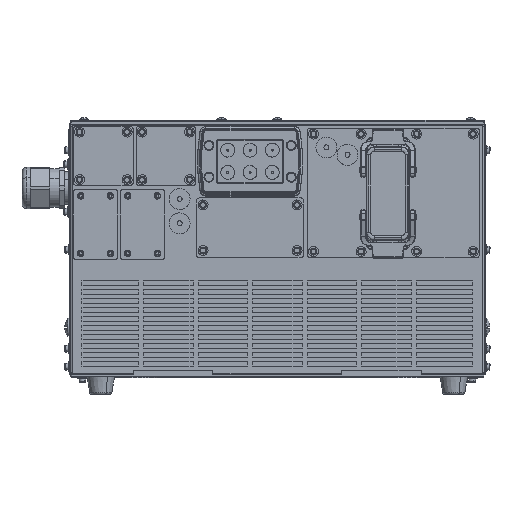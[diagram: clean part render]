
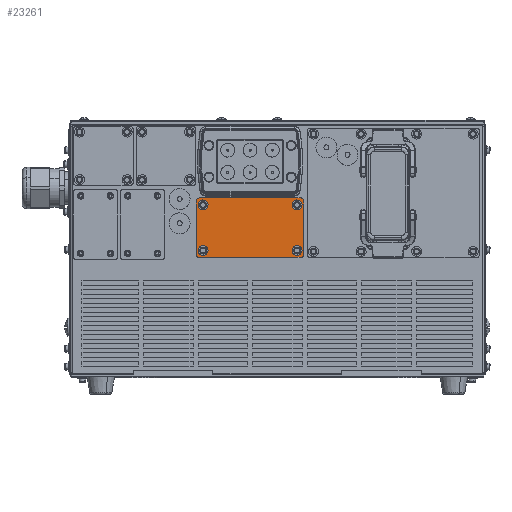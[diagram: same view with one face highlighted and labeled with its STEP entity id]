
A CAD part, left-side view. The second image highlights one B-rep face of the part: STEP entity #23261.
In plain terms, the highlighted planar face has unit normal (-1, 0, 0).
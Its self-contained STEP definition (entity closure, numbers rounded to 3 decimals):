
#11885=CARTESIAN_POINT('Vertex',(-261.,78.9,138.)) ;
#11888=CARTESIAN_POINT('Axis2P3D Location',(-261.,78.9,141.)) ;
#11892=CARTESIAN_POINT('Vertex',(-261.,81.9,141.)) ;
#11916=CARTESIAN_POINT('Vertex',(-261.,81.9,195.)) ;
#11919=CARTESIAN_POINT('Line Origine',(-261.,81.9,168.)) ;
#11936=CARTESIAN_POINT('Axis2P3D Location',(-261.,78.9,195.)) ;
#11940=CARTESIAN_POINT('Vertex',(-261.,78.9,198.)) ;
#11960=CARTESIAN_POINT('Line Origine',(-261.,27.5,198.)) ;
#11964=CARTESIAN_POINT('Vertex',(-261.,-23.9,198.)) ;
#11984=CARTESIAN_POINT('Axis2P3D Location',(-261.,-23.9,195.)) ;
#11988=CARTESIAN_POINT('Vertex',(-261.,-26.9,195.)) ;
#12008=CARTESIAN_POINT('Line Origine',(-261.,-26.9,168.)) ;
#12012=CARTESIAN_POINT('Vertex',(-261.,-26.9,141.)) ;
#12032=CARTESIAN_POINT('Axis2P3D Location',(-261.,-23.9,141.)) ;
#12036=CARTESIAN_POINT('Vertex',(-261.,-23.9,138.)) ;
#12056=CARTESIAN_POINT('Line Origine',(-261.,27.5,138.)) ;
#23174=CARTESIAN_POINT('Axis2P3D Location',(-261.,-26.9,198.)) ;
#23189=CARTESIAN_POINT('Axis2P3D Location',(-261.,74.9,145.)) ;
#23193=CARTESIAN_POINT('Vertex',(-261.,72.503,149.388)) ;
#23195=CARTESIAN_POINT('Vertex',(-261.,77.297,140.612)) ;
#23198=CARTESIAN_POINT('Axis2P3D Location',(-261.,74.9,145.)) ;
#23207=CARTESIAN_POINT('Axis2P3D Location',(-261.,-19.9,145.)) ;
#23211=CARTESIAN_POINT('Vertex',(-261.,-22.297,149.388)) ;
#23213=CARTESIAN_POINT('Vertex',(-261.,-17.503,140.612)) ;
#23216=CARTESIAN_POINT('Axis2P3D Location',(-261.,-19.9,145.)) ;
#23225=CARTESIAN_POINT('Axis2P3D Location',(-261.,74.9,191.)) ;
#23229=CARTESIAN_POINT('Vertex',(-261.,72.503,195.388)) ;
#23231=CARTESIAN_POINT('Vertex',(-261.,77.297,186.612)) ;
#23234=CARTESIAN_POINT('Axis2P3D Location',(-261.,74.9,191.)) ;
#23243=CARTESIAN_POINT('Axis2P3D Location',(-261.,-19.9,191.)) ;
#23247=CARTESIAN_POINT('Vertex',(-261.,-22.297,195.388)) ;
#23249=CARTESIAN_POINT('Vertex',(-261.,-17.503,186.612)) ;
#23252=CARTESIAN_POINT('Axis2P3D Location',(-261.,-19.9,191.)) ;
#11889=DIRECTION('Axis2P3D Direction',(1.,0.,0.)) ;
#11920=DIRECTION('Vector Direction',(0.,0.,-1.)) ;
#11937=DIRECTION('Axis2P3D Direction',(1.,0.,0.)) ;
#11961=DIRECTION('Vector Direction',(0.,-1.,0.)) ;
#11985=DIRECTION('Axis2P3D Direction',(1.,0.,0.)) ;
#12009=DIRECTION('Vector Direction',(0.,0.,1.)) ;
#12033=DIRECTION('Axis2P3D Direction',(1.,0.,0.)) ;
#12057=DIRECTION('Vector Direction',(0.,1.,0.)) ;
#23175=DIRECTION('Axis2P3D Direction',(-1.,0.,0.)) ;
#23176=DIRECTION('Axis2P3D XDirection',(0.,1.,0.)) ;
#23190=DIRECTION('Axis2P3D Direction',(-1.,0.,0.)) ;
#23199=DIRECTION('Axis2P3D Direction',(-1.,0.,0.)) ;
#23208=DIRECTION('Axis2P3D Direction',(-1.,0.,0.)) ;
#23217=DIRECTION('Axis2P3D Direction',(-1.,0.,0.)) ;
#23226=DIRECTION('Axis2P3D Direction',(-1.,0.,0.)) ;
#23235=DIRECTION('Axis2P3D Direction',(-1.,0.,0.)) ;
#23244=DIRECTION('Axis2P3D Direction',(-1.,0.,0.)) ;
#23253=DIRECTION('Axis2P3D Direction',(-1.,0.,0.)) ;
#11890=AXIS2_PLACEMENT_3D('Circle Axis2P3D',#11888,#11889,$) ;
#11938=AXIS2_PLACEMENT_3D('Circle Axis2P3D',#11936,#11937,$) ;
#11986=AXIS2_PLACEMENT_3D('Circle Axis2P3D',#11984,#11985,$) ;
#12034=AXIS2_PLACEMENT_3D('Circle Axis2P3D',#12032,#12033,$) ;
#23177=AXIS2_PLACEMENT_3D('Plane Axis2P3D',#23174,#23175,#23176) ;
#23191=AXIS2_PLACEMENT_3D('Circle Axis2P3D',#23189,#23190,$) ;
#23200=AXIS2_PLACEMENT_3D('Circle Axis2P3D',#23198,#23199,$) ;
#23209=AXIS2_PLACEMENT_3D('Circle Axis2P3D',#23207,#23208,$) ;
#23218=AXIS2_PLACEMENT_3D('Circle Axis2P3D',#23216,#23217,$) ;
#23227=AXIS2_PLACEMENT_3D('Circle Axis2P3D',#23225,#23226,$) ;
#23236=AXIS2_PLACEMENT_3D('Circle Axis2P3D',#23234,#23235,$) ;
#23245=AXIS2_PLACEMENT_3D('Circle Axis2P3D',#23243,#23244,$) ;
#23254=AXIS2_PLACEMENT_3D('Circle Axis2P3D',#23252,#23253,$) ;
#23180=ORIENTED_EDGE('',*,*,#11966,.T.) ;
#23181=ORIENTED_EDGE('',*,*,#11942,.F.) ;
#23182=ORIENTED_EDGE('',*,*,#11923,.T.) ;
#23183=ORIENTED_EDGE('',*,*,#11894,.F.) ;
#23184=ORIENTED_EDGE('',*,*,#12060,.T.) ;
#23185=ORIENTED_EDGE('',*,*,#12038,.F.) ;
#23186=ORIENTED_EDGE('',*,*,#12014,.T.) ;
#23187=ORIENTED_EDGE('',*,*,#11990,.F.) ;
#23204=ORIENTED_EDGE('',*,*,#23197,.T.) ;
#23205=ORIENTED_EDGE('',*,*,#23202,.T.) ;
#23222=ORIENTED_EDGE('',*,*,#23215,.T.) ;
#23223=ORIENTED_EDGE('',*,*,#23220,.T.) ;
#23240=ORIENTED_EDGE('',*,*,#23233,.T.) ;
#23241=ORIENTED_EDGE('',*,*,#23238,.T.) ;
#23258=ORIENTED_EDGE('',*,*,#23251,.T.) ;
#23259=ORIENTED_EDGE('',*,*,#23256,.T.) ;
#23206=FACE_BOUND('',#23203,.T.) ;
#23224=FACE_BOUND('',#23221,.T.) ;
#23242=FACE_BOUND('',#23239,.T.) ;
#23260=FACE_BOUND('',#23257,.T.) ;
#11921=VECTOR('Line Direction',#11920,1.) ;
#11962=VECTOR('Line Direction',#11961,1.) ;
#12010=VECTOR('Line Direction',#12009,1.) ;
#12058=VECTOR('Line Direction',#12057,1.) ;
#23261=ADVANCED_FACE('F01',(#23188,#23206,#23224,#23242,#23260),#23178,.T.) ;
#11891=CIRCLE('generated circle',#11890,3.) ;
#11939=CIRCLE('generated circle',#11938,3.) ;
#11987=CIRCLE('generated circle',#11986,3.) ;
#12035=CIRCLE('generated circle',#12034,3.) ;
#23192=CIRCLE('generated circle',#23191,5.) ;
#23201=CIRCLE('generated circle',#23200,5.) ;
#23210=CIRCLE('generated circle',#23209,5.) ;
#23219=CIRCLE('generated circle',#23218,5.) ;
#23228=CIRCLE('generated circle',#23227,5.) ;
#23237=CIRCLE('generated circle',#23236,5.) ;
#23246=CIRCLE('generated circle',#23245,5.) ;
#23255=CIRCLE('generated circle',#23254,5.) ;
#11894=EDGE_CURVE('',#11886,#11893,#11891,.T.) ;
#11923=EDGE_CURVE('',#11917,#11893,#11922,.T.) ;
#11942=EDGE_CURVE('',#11917,#11941,#11939,.T.) ;
#11966=EDGE_CURVE('',#11965,#11941,#11963,.F.) ;
#11990=EDGE_CURVE('',#11965,#11989,#11987,.T.) ;
#12014=EDGE_CURVE('',#12013,#11989,#12011,.T.) ;
#12038=EDGE_CURVE('',#12013,#12037,#12035,.T.) ;
#12060=EDGE_CURVE('',#11886,#12037,#12059,.F.) ;
#23197=EDGE_CURVE('',#23194,#23196,#23192,.F.) ;
#23202=EDGE_CURVE('',#23196,#23194,#23201,.F.) ;
#23215=EDGE_CURVE('',#23212,#23214,#23210,.F.) ;
#23220=EDGE_CURVE('',#23214,#23212,#23219,.F.) ;
#23233=EDGE_CURVE('',#23230,#23232,#23228,.F.) ;
#23238=EDGE_CURVE('',#23232,#23230,#23237,.F.) ;
#23251=EDGE_CURVE('',#23248,#23250,#23246,.F.) ;
#23256=EDGE_CURVE('',#23250,#23248,#23255,.F.) ;
#23179=EDGE_LOOP('',(#23180,#23181,#23182,#23183,#23184,#23185,#23186,#23187)) ;
#23203=EDGE_LOOP('',(#23204,#23205)) ;
#23221=EDGE_LOOP('',(#23222,#23223)) ;
#23239=EDGE_LOOP('',(#23240,#23241)) ;
#23257=EDGE_LOOP('',(#23258,#23259)) ;
#23188=FACE_OUTER_BOUND('',#23179,.T.) ;
#11922=LINE('Line',#11919,#11921) ;
#11963=LINE('Line',#11960,#11962) ;
#12011=LINE('Line',#12008,#12010) ;
#12059=LINE('Line',#12056,#12058) ;
#23178=PLANE('',#23177) ;
#11886=VERTEX_POINT('',#11885) ;
#11893=VERTEX_POINT('',#11892) ;
#11917=VERTEX_POINT('',#11916) ;
#11941=VERTEX_POINT('',#11940) ;
#11965=VERTEX_POINT('',#11964) ;
#11989=VERTEX_POINT('',#11988) ;
#12013=VERTEX_POINT('',#12012) ;
#12037=VERTEX_POINT('',#12036) ;
#23194=VERTEX_POINT('',#23193) ;
#23196=VERTEX_POINT('',#23195) ;
#23212=VERTEX_POINT('',#23211) ;
#23214=VERTEX_POINT('',#23213) ;
#23230=VERTEX_POINT('',#23229) ;
#23232=VERTEX_POINT('',#23231) ;
#23248=VERTEX_POINT('',#23247) ;
#23250=VERTEX_POINT('',#23249) ;
